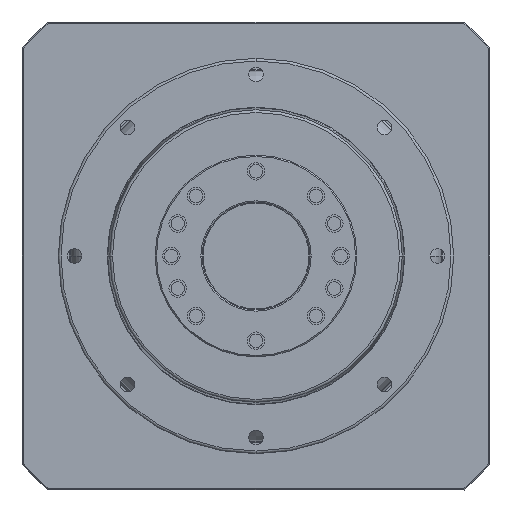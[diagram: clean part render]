
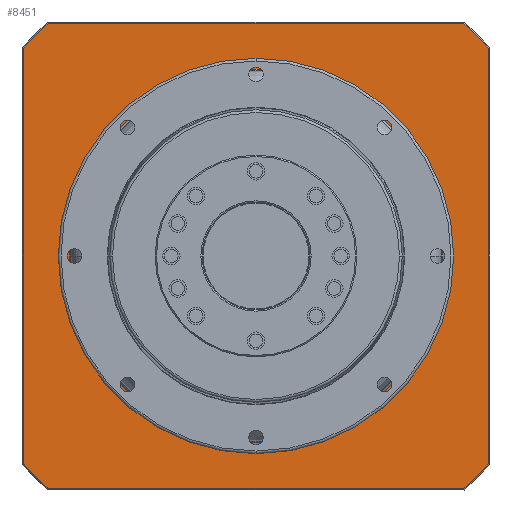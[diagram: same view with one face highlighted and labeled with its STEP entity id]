
A CAD part, left-side view. The second image highlights one B-rep face of the part: STEP entity #8451.
In plain terms, the highlighted planar face has unit normal (-1, 0, 0) as drawn and (0, 0, -1) by its records, which use the part's own axes.
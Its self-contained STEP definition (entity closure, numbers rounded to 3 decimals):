
#6717=CARTESIAN_POINT('',(0.,0.,
2.5));
#6718=DIRECTION('',(0.,0.,-1.));
#6719=DIRECTION('',(0.,-1.,0.));
#6720=AXIS2_PLACEMENT_3D('',#6717,#6718,#6719);
#6722=CARTESIAN_POINT('',(0.,0.,
2.5));
#6723=DIRECTION('',(0.,0.,-1.));
#6724=DIRECTION('',(0.,1.,0.));
#6725=AXIS2_PLACEMENT_3D('',#6722,#6723,#6724);
#6727=CARTESIAN_POINT('',(0.,0.,2.5));
#6728=DIRECTION('',(0.,0.,1.));
#6729=DIRECTION('',(-0.746,-0.666,0.));
#6730=AXIS2_PLACEMENT_3D('',#6727,#6728,#6729);
#6732=DIRECTION('',(1.,0.,0.));
#6733=VECTOR('',#6732,154.58);
#6734=CARTESIAN_POINT('',(-77.29,-86.5,
2.5));
#6735=LINE('',#6734,#6733);
#6736=CARTESIAN_POINT('',(0.,0.,2.5));
#6737=DIRECTION('',(0.,0.,1.));
#6738=DIRECTION('',(0.666,-0.746,0.));
#6739=AXIS2_PLACEMENT_3D('',#6736,#6737,#6738);
#6741=DIRECTION('',(0.,1.,0.));
#6742=VECTOR('',#6741,154.58);
#6743=CARTESIAN_POINT('',(86.5,-77.29,2.5));
#6744=LINE('',#6743,#6742);
#6745=CARTESIAN_POINT('',(0.,0.,2.5));
#6746=DIRECTION('',(0.,0.,1.));
#6747=DIRECTION('',(0.746,0.666,0.));
#6748=AXIS2_PLACEMENT_3D('',#6745,#6746,#6747);
#6750=DIRECTION('',(-1.,0.,0.));
#6751=VECTOR('',#6750,154.58);
#6752=CARTESIAN_POINT('',(77.29,86.5,2.5));
#6753=LINE('',#6752,#6751);
#6754=CARTESIAN_POINT('',(0.,0.,2.5));
#6755=DIRECTION('',(0.,0.,1.));
#6756=DIRECTION('',(-0.666,0.746,0.));
#6757=AXIS2_PLACEMENT_3D('',#6754,#6755,#6756);
#6759=DIRECTION('',(0.,-1.,0.));
#6760=VECTOR('',#6759,154.58);
#6761=CARTESIAN_POINT('',(-86.5,77.29,2.5));
#6762=LINE('',#6761,#6760);
#7958=CARTESIAN_POINT('',(0.,-69.5,2.5));
#7959=CARTESIAN_POINT('',(0.,69.5,
2.5));
#7960=VERTEX_POINT('',#7958);
#7961=VERTEX_POINT('',#7959);
#8182=CARTESIAN_POINT('',(-86.5,-77.29,2.5));
#8183=CARTESIAN_POINT('',(-77.29,-86.5,2.5));
#8184=VERTEX_POINT('',#8182);
#8185=VERTEX_POINT('',#8183);
#8190=CARTESIAN_POINT('',(77.29,-86.5,2.5));
#8191=VERTEX_POINT('',#8190);
#8194=CARTESIAN_POINT('',(86.5,-77.29,2.5));
#8195=VERTEX_POINT('',#8194);
#8198=CARTESIAN_POINT('',(86.5,77.29,2.5));
#8199=VERTEX_POINT('',#8198);
#8202=CARTESIAN_POINT('',(77.29,86.5,2.5));
#8203=VERTEX_POINT('',#8202);
#8206=CARTESIAN_POINT('',(-77.29,86.5,2.5));
#8207=VERTEX_POINT('',#8206);
#8212=CARTESIAN_POINT('',(-86.5,77.29,2.5));
#8213=VERTEX_POINT('',#8212);
#8423=CARTESIAN_POINT('',(0.,0.,2.5));
#8424=DIRECTION('',(0.,0.,1.));
#8425=DIRECTION('',(0.,1.,0.));
#8426=AXIS2_PLACEMENT_3D('',#8423,#8424,#8425);
#8427=PLANE('',#8426);
#8429=ORIENTED_EDGE('',*,*,#8428,.T.);
#8431=ORIENTED_EDGE('',*,*,#8430,.T.);
#8433=ORIENTED_EDGE('',*,*,#8432,.T.);
#8435=ORIENTED_EDGE('',*,*,#8434,.T.);
#8437=ORIENTED_EDGE('',*,*,#8436,.T.);
#8439=ORIENTED_EDGE('',*,*,#8438,.T.);
#8441=ORIENTED_EDGE('',*,*,#8440,.T.);
#8443=ORIENTED_EDGE('',*,*,#8442,.T.);
#8444=EDGE_LOOP('',(#8429,#8431,#8433,#8435,#8437,#8439,#8441,#8443));
#8445=FACE_OUTER_BOUND('',#8444,.F.);
#8447=ORIENTED_EDGE('',*,*,#8446,.T.);
#8448=ORIENTED_EDGE('',*,*,#8413,.T.);
#8449=EDGE_LOOP('',(#8447,#8448));
#8450=FACE_BOUND('',#8449,.F.);
#8451=ADVANCED_FACE('',(#8445,#8450),#8427,.F.);
#6721=CIRCLE('',#6720,69.5);
#6726=CIRCLE('',#6725,69.5);
#6731=CIRCLE('',#6730,116.);
#6740=CIRCLE('',#6739,116.);
#6749=CIRCLE('',#6748,116.);
#6758=CIRCLE('',#6757,116.);
#8413=EDGE_CURVE('',#7961,#7960,#6726,.T.);
#8428=EDGE_CURVE('',#8184,#8185,#6731,.T.);
#8430=EDGE_CURVE('',#8185,#8191,#6735,.T.);
#8432=EDGE_CURVE('',#8191,#8195,#6740,.T.);
#8434=EDGE_CURVE('',#8195,#8199,#6744,.T.);
#8436=EDGE_CURVE('',#8199,#8203,#6749,.T.);
#8438=EDGE_CURVE('',#8203,#8207,#6753,.T.);
#8440=EDGE_CURVE('',#8207,#8213,#6758,.T.);
#8442=EDGE_CURVE('',#8213,#8184,#6762,.T.);
#8446=EDGE_CURVE('',#7960,#7961,#6721,.T.);
